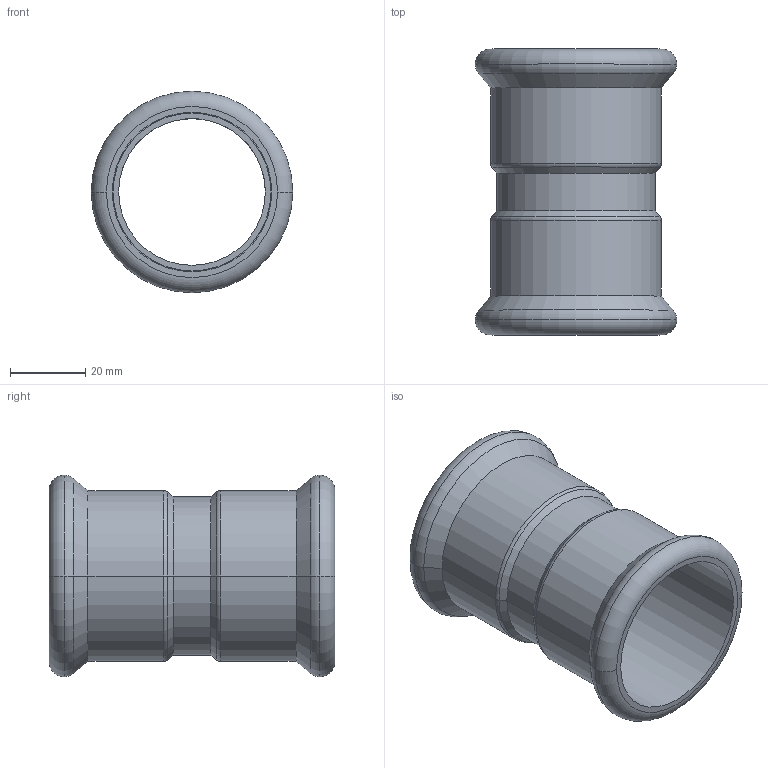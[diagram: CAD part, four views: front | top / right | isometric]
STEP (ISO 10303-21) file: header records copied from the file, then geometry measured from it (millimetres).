
FILE_DESCRIPTION(('CoCreate Modeling STEP Export'),'2;1');
FILE_NAME('C1401 42x42.stp','2014-11-06T16:50:17',(''),(''),'CoCreate Modeling STEP processor for AP214 (Solid Model)','CoCreate Modeling 17.00A 17-Jun-2010 (C) Parametric Technology GmbH','');
FILE_SCHEMA(('AUTOMOTIVE_DESIGN { 1 0 10303 214 1 1 1 1 }'));
Length unit declared in the file: millimetre
Products named in the file (2): C1401_42x42
Assembly tree (1 placements, depth 2):
  C1401_42x42
    C1401_42x42
Bounding box: 53.55 x 76 x 53.55 mm (x, y, z)
Volume: 25082.1 mm3; surface area: 23429.3 mm2
Topology: 1 solids, 1 shells, 42 faces, 86 edges, 50 vertices
Faces by surface type: cylinder 16, torus 12, cone 8, plane 6
Entity records: 935 total; most frequent: ORIENTED_EDGE 172, DIRECTION 144, CARTESIAN_POINT 134, EDGE_CURVE 86, AXIS2_PLACEMENT_3D 60, VERTEX_POINT 50, EDGE_LOOP 48, FACE_OUTER_BOUND 42
